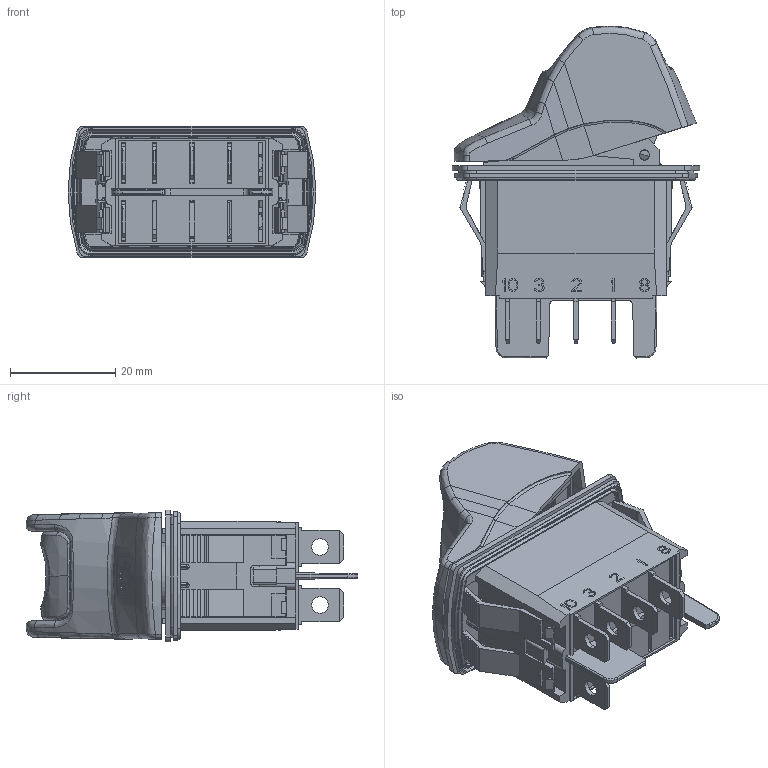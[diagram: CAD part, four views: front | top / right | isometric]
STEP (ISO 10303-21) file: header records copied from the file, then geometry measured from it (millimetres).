
FILE_DESCRIPTION((''),'2;1');
FILE_NAME('KL36CAKSG225N0160','2012-12-18T',('jfgibert'),(''),'PRO/ENGINEER BY PARAMETRIC TECHNOLOGY CORPORATION, 2011250','PRO/ENGINEER BY PARAMETRIC TECHNOLOGY CORPORATION, 2011250','');
FILE_SCHEMA(('CONFIG_CONTROL_DESIGN'));
Products named in the file (1): KL36CAKSG225N0160
Bounding box: 47 x 62.98 x 25 mm (x, y, z)
Volume: 17528.1 mm3; surface area: 27975.6 mm2
Topology: 3 solids, 3 shells, 2336 faces, 6658 edges, 4319 vertices
Faces by surface type: plane 1620, cylinder 382, bspline 189, cone 66, torus 50, extrusion 21, sphere 8
Entity records: 88040 total; most frequent: CARTESIAN_POINT 28940, ORIENTED_EDGE 13316, DIRECTION 10849, EDGE_CURVE 6658, VECTOR 4837, LINE 4816, VERTEX_POINT 4319, AXIS2_PLACEMENT_3D 3006
